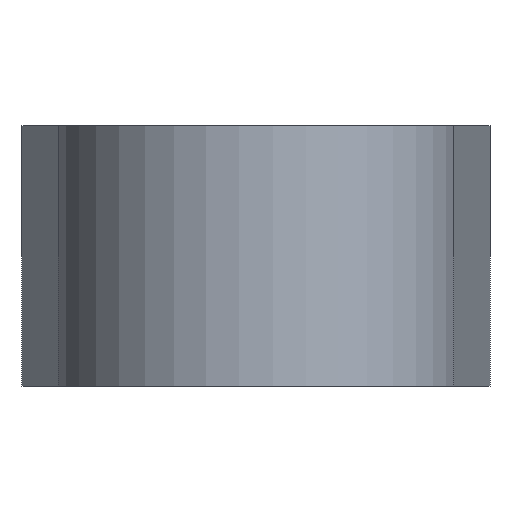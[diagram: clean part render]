
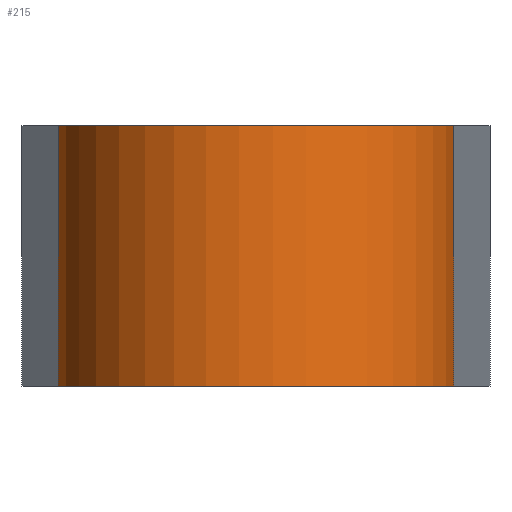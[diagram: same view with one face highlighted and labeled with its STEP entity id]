
A CAD part, left-side view. The second image highlights one B-rep face of the part: STEP entity #215.
In plain terms, the highlighted cylindrical face has radius 23 mm (diameter 46 mm), a partial arc.
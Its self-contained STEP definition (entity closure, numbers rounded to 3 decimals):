
#127=CYLINDRICAL_SURFACE('',#827,23.);
#156=CIRCLE('',#825,23.);
#157=CIRCLE('',#826,23.);
#215=ADVANCED_FACE('',(#272),#127,.T.);
#272=FACE_OUTER_BOUND('',#306,.T.);
#306=EDGE_LOOP('',(#387,#388,#389,#390));
#387=ORIENTED_EDGE('',*,*,#644,.F.);
#388=ORIENTED_EDGE('',*,*,#647,.T.);
#389=ORIENTED_EDGE('',*,*,#627,.T.);
#390=ORIENTED_EDGE('',*,*,#648,.F.);
#561=VERTEX_POINT('',#1162);
#562=VERTEX_POINT('',#1164);
#573=VERTEX_POINT('',#1198);
#574=VERTEX_POINT('',#1199);
#627=EDGE_CURVE('',#562,#561,#727,.T.);
#644=EDGE_CURVE('',#573,#574,#740,.T.);
#647=EDGE_CURVE('',#573,#562,#156,.T.);
#648=EDGE_CURVE('',#574,#561,#157,.T.);
#727=LINE('',#1163,#771);
#740=LINE('',#1197,#784);
#771=VECTOR('',#917,1.);
#784=VECTOR('',#950,1.);
#825=AXIS2_PLACEMENT_3D('',#1203,#955,#956);
#826=AXIS2_PLACEMENT_3D('',#1204,#957,#958);
#827=AXIS2_PLACEMENT_3D('',#1205,#959,#960);
#917=DIRECTION('',(0.,0.,1.));
#950=DIRECTION('',(0.,0.,1.));
#955=DIRECTION('',(0.,0.,1.));
#956=DIRECTION('',(1.,0.,0.));
#957=DIRECTION('',(0.,0.,1.));
#958=DIRECTION('',(1.,0.,0.));
#959=DIRECTION('',(0.,0.,1.));
#960=DIRECTION('',(-1.,0.,0.));
#1162=CARTESIAN_POINT('',(-3.085,-22.792,30.));
#1163=CARTESIAN_POINT('',(-3.085,-22.792,0.));
#1164=CARTESIAN_POINT('',(-3.085,-22.792,0.));
#1197=CARTESIAN_POINT('',(-3.085,22.792,0.));
#1198=CARTESIAN_POINT('',(-3.085,22.792,0.));
#1199=CARTESIAN_POINT('',(-3.085,22.792,30.));
#1203=CARTESIAN_POINT('',(0.,0.,0.));
#1204=CARTESIAN_POINT('',(0.,0.,30.));
#1205=CARTESIAN_POINT('',(0.,0.,0.));
